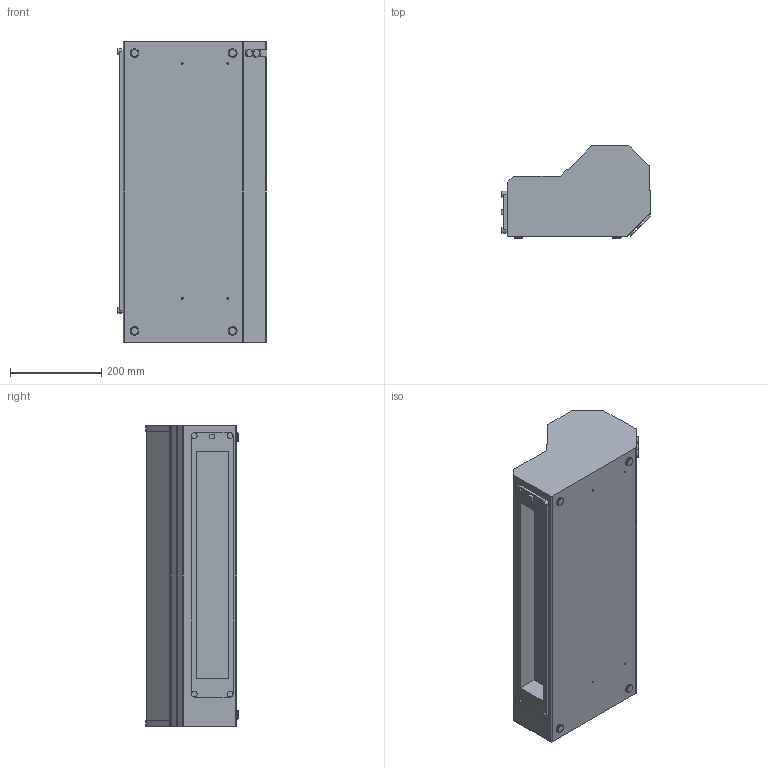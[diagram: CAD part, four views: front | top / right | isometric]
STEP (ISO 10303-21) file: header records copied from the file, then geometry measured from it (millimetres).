
FILE_DESCRIPTION((''),'2;1');
FILE_NAME('Z:\500\5001632\5001632 Rev A.stp','2018-09-24T10:55:36',('RickR'),(''),'Autodesk Inventor 2013','Autodesk Inventor 2013','');
FILE_SCHEMA(('AUTOMOTIVE_DESIGN { 1 0 10303 214 1 1 1 1 }'));
Length unit declared in the file: inch
Products named in the file (1): 5001632
Bounding box: 328.73 x 203.35 x 660.4 mm (x, y, z)
Volume: 31469598.6 mm3; surface area: 771638.6 mm2
Topology: 1 solids, 1 shells, 112 faces, 268 edges, 174 vertices
Faces by surface type: plane 68, cylinder 36, torus 4, cone 4
Full cylindrical faces by diameter (mm): 3.683 x4, 6.35 x5, 12.7 x4, 16.51 x1, 17.399 x1, 19.05 x4
Entity records: 3185 total; most frequent: DIRECTION 541, CARTESIAN_POINT 516, ORIENTED_EDGE 470, EDGE_CURVE 235, AXIS2_PLACEMENT_3D 193, VERTEX_POINT 168, EDGE_LOOP 155, VECTOR 155
